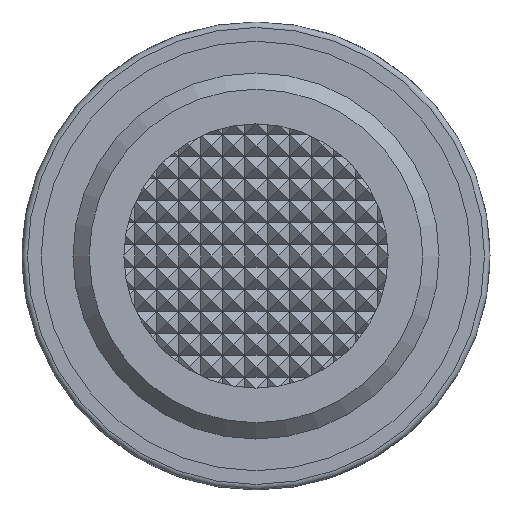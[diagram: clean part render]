
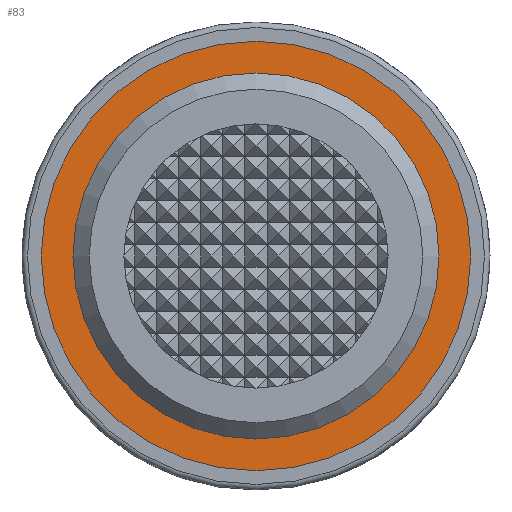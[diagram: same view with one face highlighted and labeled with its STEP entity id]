
A CAD part, left-side view. The second image highlights one B-rep face of the part: STEP entity #83.
In plain terms, the highlighted planar face has unit normal (-1, 0, 0).
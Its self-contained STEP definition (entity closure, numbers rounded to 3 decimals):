
#83 = ADVANCED_FACE( '', ( #622, #623 ), #624, .F. );
#622 = FACE_OUTER_BOUND( '', #1684, .T. );
#623 = FACE_BOUND( '', #1685, .T. );
#624 = PLANE( '', #1686 );
#1684 = EDGE_LOOP( '', ( #2791 ) );
#1685 = EDGE_LOOP( '', ( #2792 ) );
#1686 = AXIS2_PLACEMENT_3D( '', #2793, #2794, #2795 );
#2791 = ORIENTED_EDGE( '', *, *, #6097, .F. );
#2792 = ORIENTED_EDGE( '', *, *, #6098, .T. );
#2793 = CARTESIAN_POINT( '', ( -1., 16.625, 0. ) );
#2794 = DIRECTION( '', ( 1., 0., 0. ) );
#2795 = DIRECTION( '', ( 0., 0., -1. ) );
#6097 = EDGE_CURVE( '', #7005, #7005, #7006, .T. );
#6098 = EDGE_CURVE( '', #7007, #7007, #7008, .T. );
#7005 = VERTEX_POINT( '', #8266 );
#7006 = CIRCLE( '', #8267, 19.5 );
#7007 = VERTEX_POINT( '', #8268 );
#7008 = CIRCLE( '', #8269, 16.625 );
#8266 = CARTESIAN_POINT( '', ( -1., 0., -19.5 ) );
#8267 = AXIS2_PLACEMENT_3D( '', #10242, #10243, #10244 );
#8268 = CARTESIAN_POINT( '', ( -1., 0., -16.625 ) );
#8269 = AXIS2_PLACEMENT_3D( '', #10245, #10246, #10247 );
#10242 = CARTESIAN_POINT( '', ( -1., 0., 0. ) );
#10243 = DIRECTION( '', ( 1., 0., 0. ) );
#10244 = DIRECTION( '', ( 0., 0., -1. ) );
#10245 = CARTESIAN_POINT( '', ( -1., 0., 0. ) );
#10246 = DIRECTION( '', ( 1., 0., 0. ) );
#10247 = DIRECTION( '', ( 0., 0., -1. ) );
